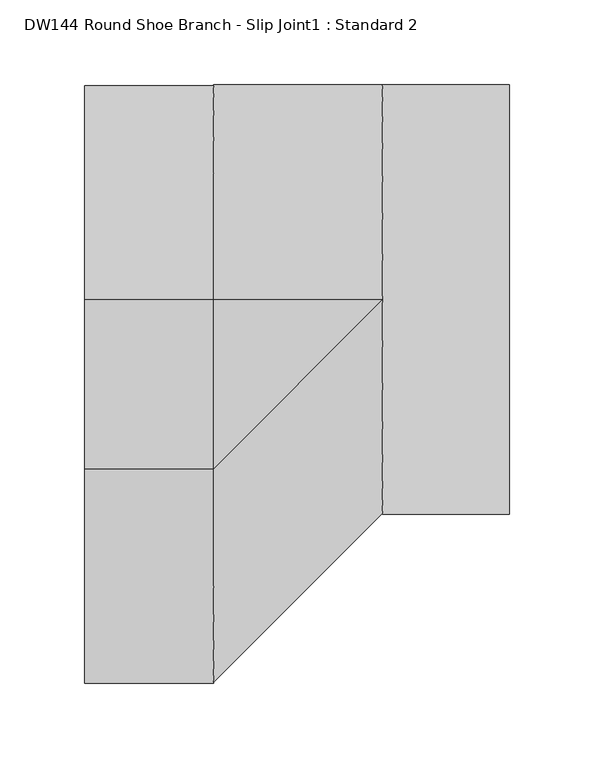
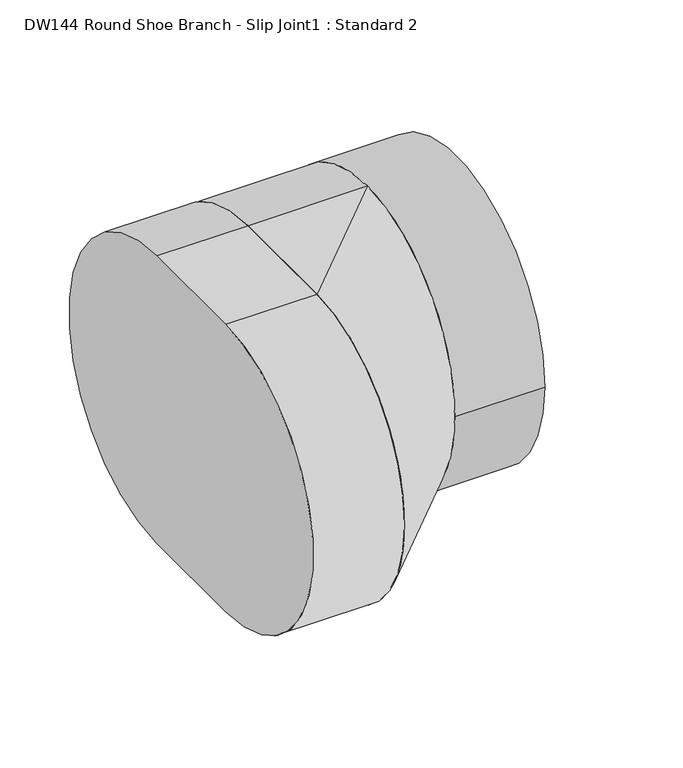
"""IFC4 building model written with IfcOpenShell, lengths in millimetres: duct fitting geometry, DW144 Round Shoe Branch - Slip Joint1 : Standard 2."""

from ifc_helpers import new_model, si_unit, point, frame, frame_2d, origin, origin_2d, place, context, project, spatial, polyline, circle_curve, trimmed, segment, composite_curve, outline, extrude, source, transform, mapped, element, save
from ifc_brep_helpers import plane_surface, cylinder_surface, extruded_surface, advanced_brep


def dw144_round_shoe_branch_slip_joint1_standard_2_5593e1c4(model_context):
    return source(origin(), model_context, "Body", "SolidModel", [
        extrude(outline(composite_curve([segment(trimmed(circle_curve(origin_2d(), 127.0), [point((-127.0, 0.0))], [point((127.0, 0.0))], False, "CARTESIAN"), True, "CONTINUOUS"), segment(trimmed(circle_curve(origin_2d(), 127.0), [point((127.0, 0.0))], [point((-127.0, 0.0))], False, "CARTESIAN"), True, "CONTINUOUS")], self_intersect=False)), frame((100.0, 0.0, 0.0), z_axis=(1.0, 0.0, 0.0), x_axis=(0.0, 1.0, 0.0)), (0.0, 0.0, 1.0), 75.0),
        advanced_brep(
        [(100.0, 0.0, -127.0), (100.0, 0.0, 127.0), (0.0, 0.0, -127.0), (0.0, -100.0, -127.0), (0.0, -100.0, 127.0), (0.0, 0.0, 127.0)],
        [
            (0, 1, circle_curve(frame((100.0, 0.0, 0.0), z_axis=(1.0, 0.0, 0.0), x_axis=(0.0, 1.0, 0.0)), 127.0)),
            (1, 0, circle_curve(frame((100.0, 0.0, 0.0), z_axis=(1.0, 0.0, 0.0), x_axis=(0.0, 1.0, 0.0)), 127.0)),
            (2, 3),
            (3, 4, circle_curve(frame((0.0, -100.0, 0.0), z_axis=(-1.0, 0.0, 0.0), x_axis=(0.0, 1.0, 0.0)), 127.0)),
            (4, 5),
            (5, 2, circle_curve(frame((0.0, 0.0, 0.0), z_axis=(-1.0, 0.0, 0.0), x_axis=(0.0, 1.0, 0.0)), 127.0)),
            (5, 1),
            (0, 2),
            (4, 1),
            (3, 0),
        ],
        [
            plane_surface(frame((100.0, 0.0, 0.0), z_axis=(1.0, 0.0, 0.0), x_axis=(0.0, 1.0, 0.0))),
            plane_surface(frame((0.0, -50.0, 0.0), z_axis=(-1.0, 0.0, 0.0), x_axis=(0.0, 1.0, 0.0))),
            cylinder_surface(frame((0.0, 0.0, 0.0), z_axis=(1.0, 0.0, 0.0), x_axis=(0.0, 1.0, 0.0)), 127.0),
            plane_surface(frame((0.0, -50.0, 127.0), z_axis=(0.0, 0.0, 1.0), x_axis=(0.0, -1.0, 0.0))),
            extruded_surface(trimmed(circle_curve(frame((0.0, -100.0, 0.0), z_axis=(1.0, 0.0, 0.0), x_axis=(0.0, 1.0, 0.0)), 127.0), [point((0.0, -100.0, 127.0))], [point((0.0, -100.0, -127.0))], True, "CARTESIAN"), (100.0, 100.0, 0.0), 141.4213562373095),
            plane_surface(frame((0.0, -50.0, -127.0), z_axis=(0.0, 0.0, -1.0), x_axis=(0.0, 1.0, 0.0))),
        ],
        [
            (0, [[1, 2]]),
            (1, [[3, 4, 5, 6]]),
            (2, [[-6, 7, -1, 8]]),
            (3, [[-5, 9, -7]]),
            (4, [[-4, 10, -2, -9]]),
            (5, [[-3, -8, -10]]),
        ],
    ),
        extrude(outline(composite_curve([segment(polyline([(0.0, -127.0), (-100.0, -127.0)]), True, "CONTINUOUS"), segment(trimmed(circle_curve(frame_2d((-100.0, 0.0)), 127.0), [point((-100.0, -127.0))], [point((-100.0, 127.0))], False, "CARTESIAN"), True, "CONTINUOUS"), segment(polyline([(-100.0, 127.0), (0.0, 127.0)]), True, "CONTINUOUS"), segment(trimmed(circle_curve(origin_2d(), 127.0), [point((0.0, 127.0))], [point((0.0, -127.0))], False, "CARTESIAN"), True, "CONTINUOUS")], self_intersect=False)), frame((-76.2774558, 0.0, 0.0), z_axis=(1.0, 0.0, 0.0), x_axis=(0.0, 1.0, 0.0)), (0.0, 0.0, 1.0), 76.2774558),
    ])


if __name__ == "__main__":
    model = new_model("IFC4")
    model_context = context("Model", 3, world=origin())
    ifc_project = project(units=[si_unit("LENGTHUNIT", "METRE", prefix="MILLI")], contexts=[model_context])
    site = spatial("IfcSite", under=ifc_project)
    building = spatial("IfcBuilding", under=site)
    placement = place(None, origin())
    dw144_round_shoe_branch_slip_joint1_standard_2_shape = dw144_round_shoe_branch_slip_joint1_standard_2_5593e1c4(model_context)
    element("IfcDuctFitting", 1, ObjectType="DW144 Round Shoe Branch - Slip Joint1 : Standard 2", at=placement, inside=building, context=model_context, shape_type="MappedRepresentation", body=[
        mapped(dw144_round_shoe_branch_slip_joint1_standard_2_shape, transform((0.0, 0.0, 0.0), x_axis=(1.0, 0.0, 0.0), y_axis=(0.0, 1.0, 0.0), z_axis=(0.0, 0.0, 1.0))),
    ])
    save(model, "model.ifc")
